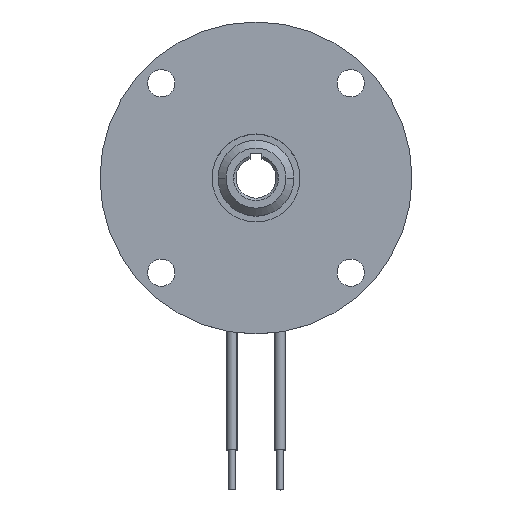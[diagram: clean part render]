
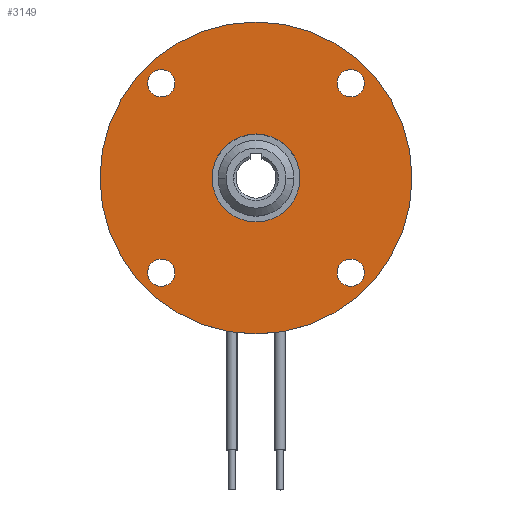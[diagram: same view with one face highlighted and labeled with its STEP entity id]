
A CAD part, top view. The second image highlights one B-rep face of the part: STEP entity #3149.
In plain terms, the highlighted planar face has unit normal (0, 0, 1).
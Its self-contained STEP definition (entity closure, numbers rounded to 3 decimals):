
#61 = CARTESIAN_POINT ( 'NONE',  ( -11.844, -11.844, 0. ) ) ;
#68 = CARTESIAN_POINT ( 'NONE',  ( 0., 0., 0. ) ) ;
#190 = CIRCLE ( 'NONE', #6148, 1.7 ) ;
#193 = DIRECTION ( 'NONE',  ( -1., 0., 0. ) ) ;
#213 = PLANE ( 'NONE',  #5872 ) ;
#238 = EDGE_CURVE ( 'NONE', #1427, #948, #3177, .T. ) ;
#295 = DIRECTION ( 'NONE',  ( 0., 0., -1. ) ) ;
#303 = CARTESIAN_POINT ( 'NONE',  ( 11.844, 11.844, 0. ) ) ;
#346 = DIRECTION ( 'NONE',  ( -1., 0., 0. ) ) ;
#449 = CARTESIAN_POINT ( 'NONE',  ( 5.5, 0., 0. ) ) ;
#450 = FACE_BOUND ( 'NONE', #3619, .T. ) ;
#563 = CIRCLE ( 'NONE', #1413, 5.5 ) ;
#637 = CARTESIAN_POINT ( 'NONE',  ( 0., 0., 0. ) ) ;
#686 = DIRECTION ( 'NONE',  ( -1., 0., 0. ) ) ;
#748 = FACE_OUTER_BOUND ( 'NONE', #6153, .T. ) ;
#755 = CARTESIAN_POINT ( 'NONE',  ( 11.844, -11.844, 0. ) ) ;
#770 = AXIS2_PLACEMENT_3D ( 'NONE', #68, #4548, #2000 ) ;
#809 = VERTEX_POINT ( 'NONE', #1312 ) ;
#846 = AXIS2_PLACEMENT_3D ( 'NONE', #303, #1853, #3400 ) ;
#882 = AXIS2_PLACEMENT_3D ( 'NONE', #4743, #295, #193 ) ;
#927 = EDGE_LOOP ( 'NONE', ( #4914, #4989 ) ) ;
#948 = VERTEX_POINT ( 'NONE', #3926 ) ;
#951 = DIRECTION ( 'NONE',  ( 0., 0., -1. ) ) ;
#1015 = AXIS2_PLACEMENT_3D ( 'NONE', #3533, #951, #1935 ) ;
#1023 = ORIENTED_EDGE ( 'NONE', *, *, #3698, .F. ) ;
#1057 = AXIS2_PLACEMENT_3D ( 'NONE', #61, #4137, #3172 ) ;
#1132 = CIRCLE ( 'NONE', #3687, 1.7 ) ;
#1237 = DIRECTION ( 'NONE',  ( -1., 0., 0. ) ) ;
#1242 = DIRECTION ( 'NONE',  ( 0., 0., -1. ) ) ;
#1288 = FACE_BOUND ( 'NONE', #6116, .T. ) ;
#1302 = CARTESIAN_POINT ( 'NONE',  ( 11.844, -11.844, 0. ) ) ;
#1312 = CARTESIAN_POINT ( 'NONE',  ( -5.5, 0., 0. ) ) ;
#1334 = CARTESIAN_POINT ( 'NONE',  ( -13.544, -11.844, 0. ) ) ;
#1350 = EDGE_CURVE ( 'NONE', #3285, #4909, #1132, .T. ) ;
#1390 = DIRECTION ( 'NONE',  ( -1., 0., 0. ) ) ;
#1413 = AXIS2_PLACEMENT_3D ( 'NONE', #637, #6080, #5681 ) ;
#1427 = VERTEX_POINT ( 'NONE', #3074 ) ;
#1544 = CARTESIAN_POINT ( 'NONE',  ( -10.144, 11.844, 0. ) ) ;
#1597 = EDGE_CURVE ( 'NONE', #5227, #1735, #3989, .T. ) ;
#1641 = VERTEX_POINT ( 'NONE', #1544 ) ;
#1735 = VERTEX_POINT ( 'NONE', #2173 ) ;
#1816 = DIRECTION ( 'NONE',  ( -1., 0., 0. ) ) ;
#1834 = EDGE_CURVE ( 'NONE', #5541, #1641, #6001, .T. ) ;
#1853 = DIRECTION ( 'NONE',  ( 0., 0., -1. ) ) ;
#1901 = EDGE_LOOP ( 'NONE', ( #4703, #3340 ) ) ;
#1902 = DIRECTION ( 'NONE',  ( 0., 0., -1. ) ) ;
#1935 = DIRECTION ( 'NONE',  ( -1., 0., 0. ) ) ;
#1964 = CARTESIAN_POINT ( 'NONE',  ( 11.844, 11.844, 0. ) ) ;
#1993 = AXIS2_PLACEMENT_3D ( 'NONE', #1302, #5744, #1237 ) ;
#2000 = DIRECTION ( 'NONE',  ( -1., 0., 0. ) ) ;
#2034 = CARTESIAN_POINT ( 'NONE',  ( 13.544, 11.844, 0. ) ) ;
#2140 = EDGE_CURVE ( 'NONE', #1641, #5541, #5749, .T. ) ;
#2173 = CARTESIAN_POINT ( 'NONE',  ( 19.5, 0., 0. ) ) ;
#2223 = DIRECTION ( 'NONE',  ( -1., 0., 0. ) ) ;
#2270 = CARTESIAN_POINT ( 'NONE',  ( 0., 19.5, 0. ) ) ;
#2326 = EDGE_CURVE ( 'NONE', #6311, #4675, #190, .T. ) ;
#2367 = AXIS2_PLACEMENT_3D ( 'NONE', #4222, #4320, #686 ) ;
#2411 = ORIENTED_EDGE ( 'NONE', *, *, #5170, .T. ) ;
#2571 = CARTESIAN_POINT ( 'NONE',  ( -11.844, 11.844, 0. ) ) ;
#2632 = CARTESIAN_POINT ( 'NONE',  ( 10.144, 11.844, 0. ) ) ;
#2675 = DIRECTION ( 'NONE',  ( 0., 0., -1. ) ) ;
#2745 = CARTESIAN_POINT ( 'NONE',  ( -19.5, 0., 0. ) ) ;
#3058 = AXIS2_PLACEMENT_3D ( 'NONE', #2571, #3083, #5092 ) ;
#3074 = CARTESIAN_POINT ( 'NONE',  ( 13.544, -11.844, 0. ) ) ;
#3083 = DIRECTION ( 'NONE',  ( 0., 0., -1. ) ) ;
#3112 = ORIENTED_EDGE ( 'NONE', *, *, #1350, .T. ) ;
#3149 = ADVANCED_FACE ( 'NONE', ( #450, #3222, #1288, #3745, #748, #4687 ), #213, .F. ) ;
#3172 = DIRECTION ( 'NONE',  ( -1., 0., 0. ) ) ;
#3177 = CIRCLE ( 'NONE', #6440, 1.7 ) ;
#3193 = CARTESIAN_POINT ( 'NONE',  ( -10.144, -11.844, 0. ) ) ;
#3222 = FACE_BOUND ( 'NONE', #1901, .T. ) ;
#3285 = VERTEX_POINT ( 'NONE', #2632 ) ;
#3340 = ORIENTED_EDGE ( 'NONE', *, *, #238, .T. ) ;
#3400 = DIRECTION ( 'NONE',  ( -1., 0., 0. ) ) ;
#3438 = VERTEX_POINT ( 'NONE', #449 ) ;
#3533 = CARTESIAN_POINT ( 'NONE',  ( 0., 0., 0. ) ) ;
#3563 = ORIENTED_EDGE ( 'NONE', *, *, #5514, .T. ) ;
#3619 = EDGE_LOOP ( 'NONE', ( #3112, #2411 ) ) ;
#3687 = AXIS2_PLACEMENT_3D ( 'NONE', #1964, #3915, #1390 ) ;
#3698 = EDGE_CURVE ( 'NONE', #1735, #5227, #5241, .T. ) ;
#3745 = FACE_BOUND ( 'NONE', #6414, .T. ) ;
#3915 = DIRECTION ( 'NONE',  ( 0., 0., -1. ) ) ;
#3926 = CARTESIAN_POINT ( 'NONE',  ( 10.144, -11.844, 0. ) ) ;
#3989 = CIRCLE ( 'NONE', #1015, 19.5 ) ;
#4108 = EDGE_CURVE ( 'NONE', #948, #1427, #4341, .T. ) ;
#4137 = DIRECTION ( 'NONE',  ( 0., 0., -1. ) ) ;
#4140 = ORIENTED_EDGE ( 'NONE', *, *, #2140, .T. ) ;
#4222 = CARTESIAN_POINT ( 'NONE',  ( 0., 0., 0. ) ) ;
#4320 = DIRECTION ( 'NONE',  ( 0., 0., -1. ) ) ;
#4341 = CIRCLE ( 'NONE', #1993, 1.7 ) ;
#4548 = DIRECTION ( 'NONE',  ( 0., 0., -1. ) ) ;
#4675 = VERTEX_POINT ( 'NONE', #3193 ) ;
#4687 = FACE_BOUND ( 'NONE', #927, .T. ) ;
#4703 = ORIENTED_EDGE ( 'NONE', *, *, #4108, .T. ) ;
#4743 = CARTESIAN_POINT ( 'NONE',  ( -11.844, 11.844, 0. ) ) ;
#4909 = VERTEX_POINT ( 'NONE', #2034 ) ;
#4914 = ORIENTED_EDGE ( 'NONE', *, *, #6450, .T. ) ;
#4989 = ORIENTED_EDGE ( 'NONE', *, *, #6458, .T. ) ;
#5092 = DIRECTION ( 'NONE',  ( -1., 0., 0. ) ) ;
#5170 = EDGE_CURVE ( 'NONE', #4909, #3285, #6131, .T. ) ;
#5227 = VERTEX_POINT ( 'NONE', #2745 ) ;
#5241 = CIRCLE ( 'NONE', #2367, 19.5 ) ;
#5351 = ORIENTED_EDGE ( 'NONE', *, *, #1834, .T. ) ;
#5514 = EDGE_CURVE ( 'NONE', #4675, #6311, #6455, .T. ) ;
#5541 = VERTEX_POINT ( 'NONE', #5807 ) ;
#5634 = ORIENTED_EDGE ( 'NONE', *, *, #1597, .F. ) ;
#5681 = DIRECTION ( 'NONE',  ( -1., 0., 0. ) ) ;
#5714 = ORIENTED_EDGE ( 'NONE', *, *, #2326, .T. ) ;
#5744 = DIRECTION ( 'NONE',  ( 0., 0., -1. ) ) ;
#5749 = CIRCLE ( 'NONE', #882, 1.7 ) ;
#5807 = CARTESIAN_POINT ( 'NONE',  ( -13.544, 11.844, 0. ) ) ;
#5872 = AXIS2_PLACEMENT_3D ( 'NONE', #2270, #2675, #2223 ) ;
#5963 = CIRCLE ( 'NONE', #770, 5.5 ) ;
#6001 = CIRCLE ( 'NONE', #3058, 1.7 ) ;
#6080 = DIRECTION ( 'NONE',  ( 0., 0., -1. ) ) ;
#6116 = EDGE_LOOP ( 'NONE', ( #5714, #3563 ) ) ;
#6131 = CIRCLE ( 'NONE', #846, 1.7 ) ;
#6148 = AXIS2_PLACEMENT_3D ( 'NONE', #6398, #1242, #1816 ) ;
#6153 = EDGE_LOOP ( 'NONE', ( #5634, #1023 ) ) ;
#6311 = VERTEX_POINT ( 'NONE', #1334 ) ;
#6398 = CARTESIAN_POINT ( 'NONE',  ( -11.844, -11.844, 0. ) ) ;
#6414 = EDGE_LOOP ( 'NONE', ( #5351, #4140 ) ) ;
#6440 = AXIS2_PLACEMENT_3D ( 'NONE', #755, #1902, #346 ) ;
#6450 = EDGE_CURVE ( 'NONE', #809, #3438, #563, .T. ) ;
#6455 = CIRCLE ( 'NONE', #1057, 1.7 ) ;
#6458 = EDGE_CURVE ( 'NONE', #3438, #809, #5963, .T. ) ;
